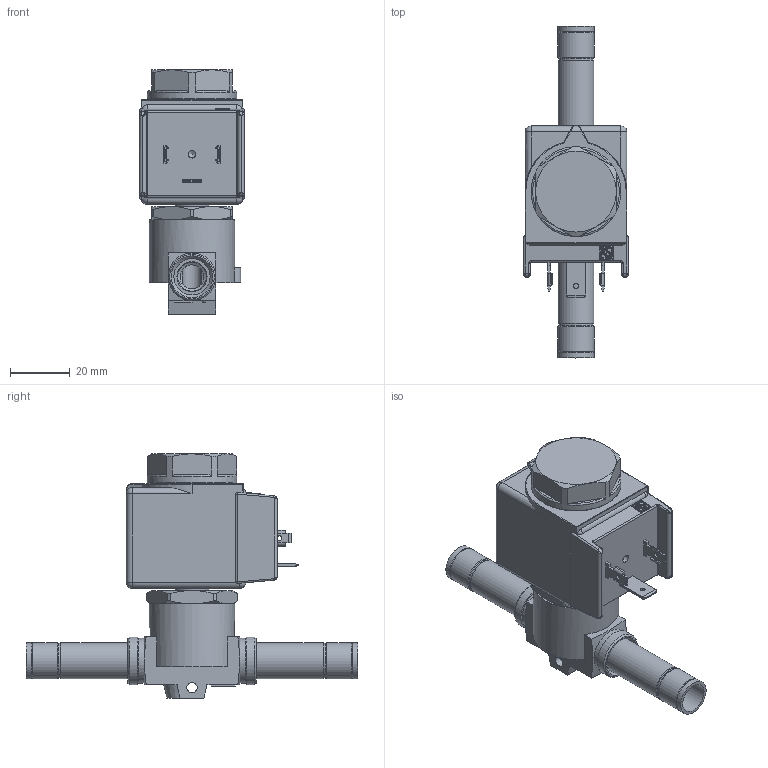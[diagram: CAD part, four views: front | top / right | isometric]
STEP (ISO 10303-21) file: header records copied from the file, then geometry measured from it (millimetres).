
FILE_DESCRIPTION(/* description */ (''),/* implementation_level */ '2;1');
FILE_NAME(/* name */ '1068_M10A6',/* time_stamp */ '2009-11-27T17:20:33+01:00',/* author */ (''),/* organization */ (''),/* preprocessor_version */ 'ST-DEVELOPER v9',/* originating_system */ 'UGS - NX 4.0',/* authorisation */ '');
FILE_SCHEMA (('CONFIG_CONTROL_DESIGN'));
Length unit declared in the file: millimetre
Products named in the file (1): VSal9E4Frz68
Bounding box: 35 x 111 x 81.7 mm (x, y, z)
Volume: 72456.1 mm3; surface area: 31984.2 mm2
Topology: 3 solids, 12 shells, 654 faces, 1533 edges, 917 vertices
Faces by surface type: cylinder 232, plane 229, torus 81, cone 60, sphere 32, bspline 20
Full cylindrical faces by diameter (mm): 1.65 x3, 2.594 x1, 2.9 x1, 3.4 x1, 6 x2, 6.5 x1, 8 x4, 9 x1, 9.6 x2, 10 x3, 10.1 x2, 10.55 x1, 10.7 x1, 10.95 x1, 11.2 x1, 11.35 x2, 11.5 x1, 11.6 x3, 12 x3, 12.1 x4, 12.8 x1, 15 x2, 15.9 x2, 16.5 x1, 17.5 x1, 17.6 x1, 18.6 x1, 19.1 x1, 21 x1, 22.1 x1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
Entity records: 18767 total; most frequent: CARTESIAN_POINT 4755, DIRECTION 3016, ORIENTED_EDGE 2612, EDGE_CURVE 1306, AXIS2_PLACEMENT_3D 1218, VERTEX_POINT 862, EDGE_LOOP 850, ADVANCED_FACE 654
